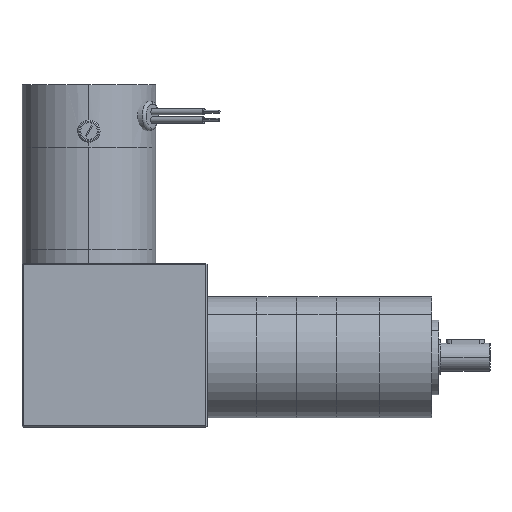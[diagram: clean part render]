
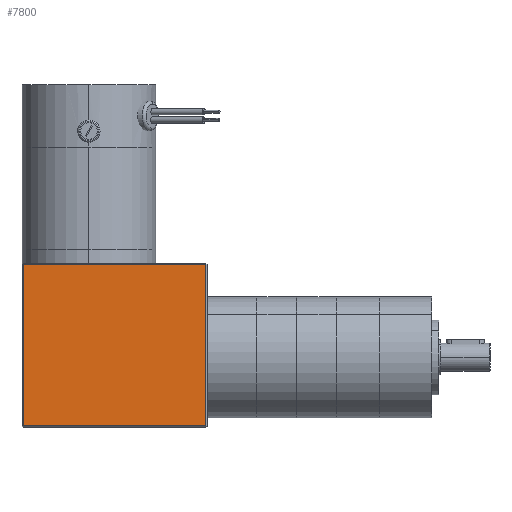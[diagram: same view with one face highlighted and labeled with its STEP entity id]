
A CAD part, top view. The second image highlights one B-rep face of the part: STEP entity #7800.
In plain terms, the highlighted planar face has unit normal (0, 0, 1).
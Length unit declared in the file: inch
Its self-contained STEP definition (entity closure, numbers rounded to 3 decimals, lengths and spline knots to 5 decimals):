
#1198 = VERTEX_POINT ( 'NONE', #15186 ) ;
#1639 = VERTEX_POINT ( 'NONE', #12762 ) ;
#1854 = DIRECTION ( 'NONE',  ( 1., 0., 0. ) ) ;
#1885 = EDGE_LOOP ( 'NONE', ( #5315, #14011, #13456, #4808 ) ) ;
#1896 = CARTESIAN_POINT ( 'NONE',  ( 6.18522, 2.12143, 4.88687 ) ) ;
#1920 = CARTESIAN_POINT ( 'NONE',  ( 4.62872, 3.47643, 4.88687 ) ) ;
#2101 = EDGE_CURVE ( 'NONE', #1198, #1639, #8405, .T. ) ;
#3516 = VERTEX_POINT ( 'NONE', #15179 ) ;
#3847 = VECTOR ( 'NONE', #11032, 39.37008 ) ;
#4808 = ORIENTED_EDGE ( 'NONE', *, *, #2101, .T. ) ;
#5315 = ORIENTED_EDGE ( 'NONE', *, *, #7849, .T. ) ;
#5689 = DIRECTION ( 'NONE',  ( 0., -1., 0. ) ) ;
#5931 = VECTOR ( 'NONE', #5689, 39.37008 ) ;
#6092 = AXIS2_PLACEMENT_3D ( 'NONE', #1896, #15265, #13046 ) ;
#6632 = EDGE_CURVE ( 'NONE', #3516, #1198, #10404, .T. ) ;
#7800 = ADVANCED_FACE ( 'NONE', ( #11710 ), #8009, .T. ) ;
#7849 = EDGE_CURVE ( 'NONE', #1639, #15078, #14579, .T. ) ;
#8009 = PLANE ( 'NONE',  #6092 ) ;
#8405 = LINE ( 'NONE', #10663, #5931 ) ;
#8658 = VECTOR ( 'NONE', #1854, 39.37008 ) ;
#10404 = LINE ( 'NONE', #1920, #11965 ) ;
#10472 = DIRECTION ( 'NONE',  ( -1., 0., 0. ) ) ;
#10663 = CARTESIAN_POINT ( 'NONE',  ( 4.64872, 0.74643, 4.88687 ) ) ;
#10913 = LINE ( 'NONE', #12226, #3847 ) ;
#11032 = DIRECTION ( 'NONE',  ( 0., 1., 0. ) ) ;
#11710 = FACE_OUTER_BOUND ( 'NONE', #1885, .T. ) ;
#11965 = VECTOR ( 'NONE', #10472, 39.37008 ) ;
#12226 = CARTESIAN_POINT ( 'NONE',  ( 7.72172, 3.49643, 4.88687 ) ) ;
#12762 = CARTESIAN_POINT ( 'NONE',  ( 4.64872, 0.76643, 4.88687 ) ) ;
#13046 = DIRECTION ( 'NONE',  ( 1., 0., 0. ) ) ;
#13456 = ORIENTED_EDGE ( 'NONE', *, *, #6632, .T. ) ;
#14011 = ORIENTED_EDGE ( 'NONE', *, *, #14160, .T. ) ;
#14160 = EDGE_CURVE ( 'NONE', #15078, #3516, #10913, .T. ) ;
#14208 = CARTESIAN_POINT ( 'NONE',  ( 7.74172, 0.76643, 4.88687 ) ) ;
#14579 = LINE ( 'NONE', #14208, #8658 ) ;
#15078 = VERTEX_POINT ( 'NONE', #15238 ) ;
#15179 = CARTESIAN_POINT ( 'NONE',  ( 7.72172, 3.47643, 4.88687 ) ) ;
#15186 = CARTESIAN_POINT ( 'NONE',  ( 4.64872, 3.47643, 4.88687 ) ) ;
#15238 = CARTESIAN_POINT ( 'NONE',  ( 7.72172, 0.76643, 4.88687 ) ) ;
#15265 = DIRECTION ( 'NONE',  ( 0., 0., 1. ) ) ;
